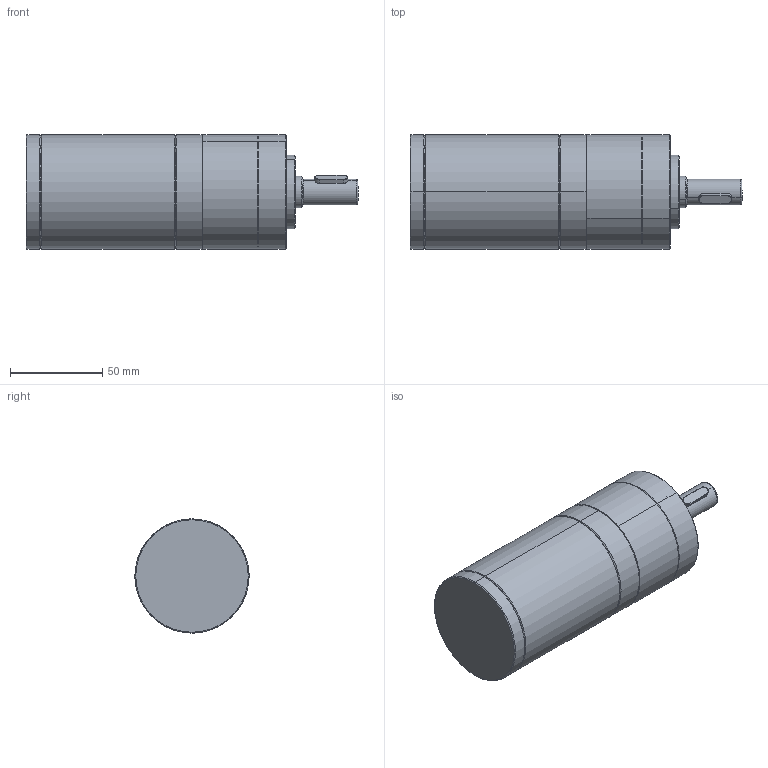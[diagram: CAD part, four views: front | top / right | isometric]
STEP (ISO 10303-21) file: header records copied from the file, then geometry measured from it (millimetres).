
FILE_DESCRIPTION (( 'STEP AP203' ), '1' );
FILE_NAME ('62BLD60W熬厒掀珨撰淕儂.STEP', '2021-07-16T03:09:02', ( '' ), ( '' ), 'SwSTEP 2.0', 'SolidWorks 2021', '' );
FILE_SCHEMA (( 'CONFIG_CONTROL_DESIGN' ));
Length unit declared in the file: millimetre
Products named in the file (3): 62BLD60W熬厒掀珨撰淕儂; 62PN珨撰; 62
Assembly tree (2 placements, depth 2):
  62BLD60W熬厒掀珨撰淕儂
    62
    62PN珨撰
Bounding box: 180.1 x 62 x 62 mm (x, y, z)
Volume: 429204.4 mm3; surface area: 44511.3 mm2
Topology: 2 solids, 2 shells, 157 faces, 351 edges, 207 vertices
Faces by surface type: plane 51, cylinder 48, cone 44, bspline 12, torus 2
Entity records: 4920 total; most frequent: CARTESIAN_POINT 1158, DIRECTION 775, ORIENTED_EDGE 682, EDGE_CURVE 341, AXIS2_PLACEMENT_3D 300, VERTEX_POINT 207, EDGE_LOOP 176, VECTOR 175
